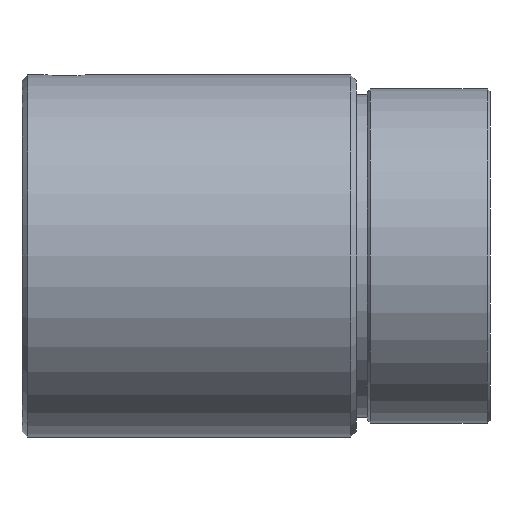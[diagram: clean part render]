
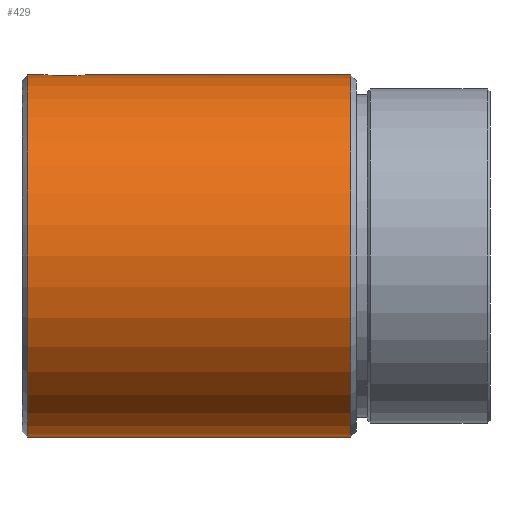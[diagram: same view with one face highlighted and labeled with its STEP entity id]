
A CAD part, front view. The second image highlights one B-rep face of the part: STEP entity #429.
In plain terms, the highlighted cylindrical face has radius 32.5 mm (diameter 65 mm), a partial arc.
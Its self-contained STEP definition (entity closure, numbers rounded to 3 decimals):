
#16 = VECTOR ( 'NONE', #235, 1000. ) ;
#44 = CARTESIAN_POINT ( 'NONE',  ( 6.869, -3.32, 32.33 ) ) ;
#45 = EDGE_CURVE ( 'NONE', #813, #383, #588, .T. ) ;
#47 = CARTESIAN_POINT ( 'NONE',  ( 10.78, -2.139, 32.43 ) ) ;
#55 = VERTEX_POINT ( 'NONE', #660 ) ;
#71 = AXIS2_PLACEMENT_3D ( 'NONE', #634, #209, #704 ) ;
#72 = CIRCLE ( 'NONE', #874, 32.5 ) ;
#86 = EDGE_CURVE ( 'NONE', #457, #55, #216, .T. ) ;
#105 = CARTESIAN_POINT ( 'NONE',  ( 4.522, -0.456, 32.498 ) ) ;
#109 = CARTESIAN_POINT ( 'NONE',  ( 7.539, -3.477, 32.314 ) ) ;
#113 = CARTESIAN_POINT ( 'NONE',  ( 11.144, -1.554, 32.464 ) ) ;
#155 = CARTESIAN_POINT ( 'NONE',  ( 59., 0., -32.5 ) ) ;
#172 = LINE ( 'NONE', #322, #559 ) ;
#188 = CARTESIAN_POINT ( 'NONE',  ( 4.679, -1.128, 32.481 ) ) ;
#192 = CARTESIAN_POINT ( 'NONE',  ( 8.229, -3.5, 32.311 ) ) ;
#195 = CARTESIAN_POINT ( 'NONE',  ( 11.387, -0.913, 32.488 ) ) ;
#209 = DIRECTION ( 'NONE',  ( -1., 0., 0. ) ) ;
#215 = CARTESIAN_POINT ( 'NONE',  ( 1., 0., 32.5 ) ) ;
#216 = LINE ( 'NONE', #801, #16 ) ;
#218 = ORIENTED_EDGE ( 'NONE', *, *, #732, .T. ) ;
#221 = DIRECTION ( 'NONE',  ( -1., 0., 0. ) ) ;
#235 = DIRECTION ( 'NONE',  ( -1., 0., 0. ) ) ;
#252 = CARTESIAN_POINT ( 'NONE',  ( 59., 0., 32.5 ) ) ;
#253 = CIRCLE ( 'NONE', #71, 32.5 ) ;
#255 = CARTESIAN_POINT ( 'NONE',  ( -28.983, 0., 0. ) ) ;
#259 = CARTESIAN_POINT ( 'NONE',  ( 4.962, -1.753, 32.453 ) ) ;
#262 = CARTESIAN_POINT ( 'NONE',  ( 8.904, -3.389, 32.323 ) ) ;
#267 = CARTESIAN_POINT ( 'NONE',  ( 11.5, -0.231, 32.5 ) ) ;
#290 = VERTEX_POINT ( 'NONE', #252 ) ;
#313 = EDGE_LOOP ( 'NONE', ( #856, #317, #218, #836, #636, #424 ) ) ;
#317 = ORIENTED_EDGE ( 'NONE', *, *, #325, .T. ) ;
#322 = CARTESIAN_POINT ( 'NONE',  ( -28.983, 0., 32.5 ) ) ;
#325 = EDGE_CURVE ( 'NONE', #457, #290, #253, .T. ) ;
#330 = CARTESIAN_POINT ( 'NONE',  ( 5.362, -2.312, 32.418 ) ) ;
#331 = CYLINDRICAL_SURFACE ( 'NONE', #507, 32.5 ) ;
#333 = CARTESIAN_POINT ( 'NONE',  ( 9.55, -3.146, 32.347 ) ) ;
#362 = FACE_OUTER_BOUND ( 'NONE', #313, .T. ) ;
#383 = VERTEX_POINT ( 'NONE', #215 ) ;
#393 = VECTOR ( 'NONE', #590, 1000. ) ;
#403 = CARTESIAN_POINT ( 'NONE',  ( 5.864, -2.782, 32.381 ) ) ;
#406 = CARTESIAN_POINT ( 'NONE',  ( 10.132, -2.785, 32.381 ) ) ;
#424 = ORIENTED_EDGE ( 'NONE', *, *, #595, .F. ) ;
#429 = ADVANCED_FACE ( 'NONE', ( #362 ), #331, .T. ) ;
#457 = VERTEX_POINT ( 'NONE', #155 ) ;
#472 = CARTESIAN_POINT ( 'NONE',  ( 4.5, 0., 32.5 ) ) ;
#475 = CARTESIAN_POINT ( 'NONE',  ( 6.445, -3.144, 32.348 ) ) ;
#478 = CARTESIAN_POINT ( 'NONE',  ( 10.635, -2.315, 32.418 ) ) ;
#507 = AXIS2_PLACEMENT_3D ( 'NONE', #255, #583, #721 ) ;
#547 = CARTESIAN_POINT ( 'NONE',  ( 7.091, -3.388, 32.323 ) ) ;
#549 = CARTESIAN_POINT ( 'NONE',  ( 11.036, -1.757, 32.453 ) ) ;
#553 = B_SPLINE_CURVE_WITH_KNOTS ( 'NONE', 3,
 ( #472, #888, #105, #616, #188, #683, #259, #756, #330, #824, #403, #891, #475, #44, #547, #109, #620, #192, #687, #262, #760, #333, #826, #406, #894, #478, #47, #549, #113, #622, #195, #689, #267, #761 ),
 .UNSPECIFIED., .F., .F.,
 ( 4, 2, 2, 2, 2, 2, 2, 2, 2, 2, 2, 2, 2, 2, 2, 2, 4 ),
 ( 0.011, 0.012, 0.012, 0.013, 0.014, 0.014, 0.015, 0.016, 0.016, 0.017, 0.018, 0.018, 0.019, 0.02, 0.021, 0.021, 0.022 ),
 .UNSPECIFIED. ) ;
#559 = VECTOR ( 'NONE', #752, 1000. ) ;
#583 = DIRECTION ( 'NONE',  ( -1., 0., 0. ) ) ;
#588 = LINE ( 'NONE', #738, #393 ) ;
#590 = DIRECTION ( 'NONE',  ( -1., 0., 0. ) ) ;
#595 = EDGE_CURVE ( 'NONE', #55, #383, #72, .T. ) ;
#616 = CARTESIAN_POINT ( 'NONE',  ( 4.612, -0.907, 32.488 ) ) ;
#620 = CARTESIAN_POINT ( 'NONE',  ( 7.766, -3.5, 32.311 ) ) ;
#622 = CARTESIAN_POINT ( 'NONE',  ( 11.319, -1.133, 32.481 ) ) ;
#634 = CARTESIAN_POINT ( 'NONE',  ( 59., 0., 0. ) ) ;
#636 = ORIENTED_EDGE ( 'NONE', *, *, #45, .T. ) ;
#650 = CARTESIAN_POINT ( 'NONE',  ( 1., 0., 0. ) ) ;
#660 = CARTESIAN_POINT ( 'NONE',  ( 1., 0., -32.5 ) ) ;
#683 = CARTESIAN_POINT ( 'NONE',  ( 4.853, -1.549, 32.464 ) ) ;
#687 = CARTESIAN_POINT ( 'NONE',  ( 8.456, -3.478, 32.313 ) ) ;
#689 = CARTESIAN_POINT ( 'NONE',  ( 11.477, -0.46, 32.498 ) ) ;
#697 = VERTEX_POINT ( 'NONE', #817 ) ;
#704 = DIRECTION ( 'NONE',  ( 0., 0., 1. ) ) ;
#716 = DIRECTION ( 'NONE',  ( 0., 0., 1. ) ) ;
#721 = DIRECTION ( 'NONE',  ( 0., 0., 1. ) ) ;
#732 = EDGE_CURVE ( 'NONE', #290, #697, #172, .T. ) ;
#738 = CARTESIAN_POINT ( 'NONE',  ( -28.983, 0., 32.5 ) ) ;
#752 = DIRECTION ( 'NONE',  ( -1., 0., 0. ) ) ;
#755 = CARTESIAN_POINT ( 'NONE',  ( 4.5, 0., 32.5 ) ) ;
#756 = CARTESIAN_POINT ( 'NONE',  ( 5.218, -2.136, 32.43 ) ) ;
#760 = CARTESIAN_POINT ( 'NONE',  ( 9.126, -3.322, 32.33 ) ) ;
#761 = CARTESIAN_POINT ( 'NONE',  ( 11.5, 0., 32.5 ) ) ;
#762 = EDGE_CURVE ( 'NONE', #813, #697, #553, .T. ) ;
#801 = CARTESIAN_POINT ( 'NONE',  ( -28.983, 0., -32.5 ) ) ;
#813 = VERTEX_POINT ( 'NONE', #755 ) ;
#817 = CARTESIAN_POINT ( 'NONE',  ( 11.5, 0., 32.5 ) ) ;
#824 = CARTESIAN_POINT ( 'NONE',  ( 5.685, -2.635, 32.393 ) ) ;
#826 = CARTESIAN_POINT ( 'NONE',  ( 9.751, -3.039, 32.358 ) ) ;
#836 = ORIENTED_EDGE ( 'NONE', *, *, #762, .F. ) ;
#856 = ORIENTED_EDGE ( 'NONE', *, *, #86, .F. ) ;
#874 = AXIS2_PLACEMENT_3D ( 'NONE', #650, #221, #716 ) ;
#888 = CARTESIAN_POINT ( 'NONE',  ( 4.5, -0.228, 32.5 ) ) ;
#891 = CARTESIAN_POINT ( 'NONE',  ( 6.245, -3.037, 32.358 ) ) ;
#894 = CARTESIAN_POINT ( 'NONE',  ( 10.312, -2.638, 32.393 ) ) ;
